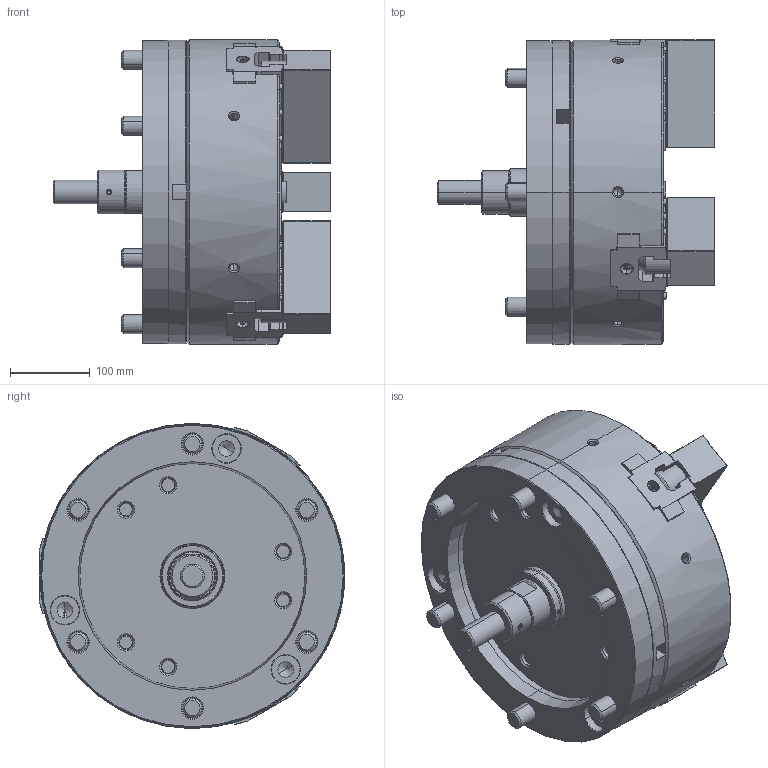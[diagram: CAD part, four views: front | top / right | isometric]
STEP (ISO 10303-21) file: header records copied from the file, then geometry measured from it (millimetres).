
FILE_DESCRIPTION (( 'STEP AP214' ), '1' );
FILE_NAME ('DT1_NV15C15_OUTSIDE_VIEW_UC.STEP', '2026-03-24T01:46:42', ( '' ), ( '' ), 'SwSTEP 2.0', 'SolidWorks 2022', '' );
FILE_SCHEMA (( 'AUTOMOTIVE_DESIGN' ));
Length unit declared in the file: millimetre
Products named in the file (18): DT1_NV15C15_OUTSIDE_VIEW_UC; DT1_NV15C15_COVER^DT1_NV15C1500; DT1_NV15C15_S24^DT1_NV15C1500_円筒用; DT1_NV15C15_COVERFOOTER^DT1_NV15C1500; DT1_NV15C15_M20x55^DT1_NV15C1500; DT1_NV15C15_SOFTJAW^DT1_NV15C1500; DT1_NV15C15_ORING^DT1_NV15C1500; DT1_NV15C15_CAP^DT1_NV15C1500; DT1_NV15C15_BP^DT1_NV15C1500; DT1_NV15C15_TNUT^DT1_NV15C1500; DT1_NV15C15_DRAWSCREW^DT1_NV15C1500; DT1_NV15C15_P80^DT1_NV15C1500_円筒用; DT1_NV15C15_DN^DT1_NV15C1500; DT1_NV15C15_S38^DT1_NV15C1500_円筒用; DT1_NV15C15_M20x110^DT1_NV15C1500; DT1_NV15C15_BASE^DT1_NV15C1500; Copy of 61P321208^DT1_NV15C1500; DT1_NV15C15_M6x12^DT1_NV15C1500
Assembly tree (46 placements, depth 2):
  DT1_NV15C15_OUTSIDE_VIEW_UC
    DT1_NV15C15_SOFTJAW^DT1_NV15C1500  x3
    DT1_NV15C15_TNUT^DT1_NV15C1500  x6
    DT1_NV15C15_COVER^DT1_NV15C1500
    DT1_NV15C15_DRAWSCREW^DT1_NV15C1500
    Copy of 61P321208^DT1_NV15C1500
    DT1_NV15C15_COVERFOOTER^DT1_NV15C1500
    DT1_NV15C15_DN^DT1_NV15C1500
    DT1_NV15C15_BP^DT1_NV15C1500
    DT1_NV15C15_BASE^DT1_NV15C1500
    DT1_NV15C15_M6x12^DT1_NV15C1500  x6
    DT1_NV15C15_M20x55^DT1_NV15C1500  x6
    DT1_NV15C15_M20x110^DT1_NV15C1500  x6
    DT1_NV15C15_S24^DT1_NV15C1500_円筒用
    DT1_NV15C15_S38^DT1_NV15C1500_円筒用
    DT1_NV15C15_P80^DT1_NV15C1500_円筒用
    DT1_NV15C15_CAP^DT1_NV15C1500  x6
    DT1_NV15C15_ORING^DT1_NV15C1500  x3
Bounding box: 347 x 382 x 381 mm (x, y, z)
Volume: 18600506.7 mm3; surface area: 1488004.8 mm2
Topology: 46 solids, 76 shells, 6666 faces, 18372 edges, 11844 vertices
Faces by surface type: plane 4345, cylinder 1155, cone 870, torus 158, bspline 132, sphere 6
Entity records: 168818 total; most frequent: CARTESIAN_POINT 43469, ORIENTED_EDGE 27216, DIRECTION 23372, EDGE_CURVE 13608, VECTOR 9390, LINE 9390, VERTEX_POINT 8840, AXIS2_PLACEMENT_3D 6991
